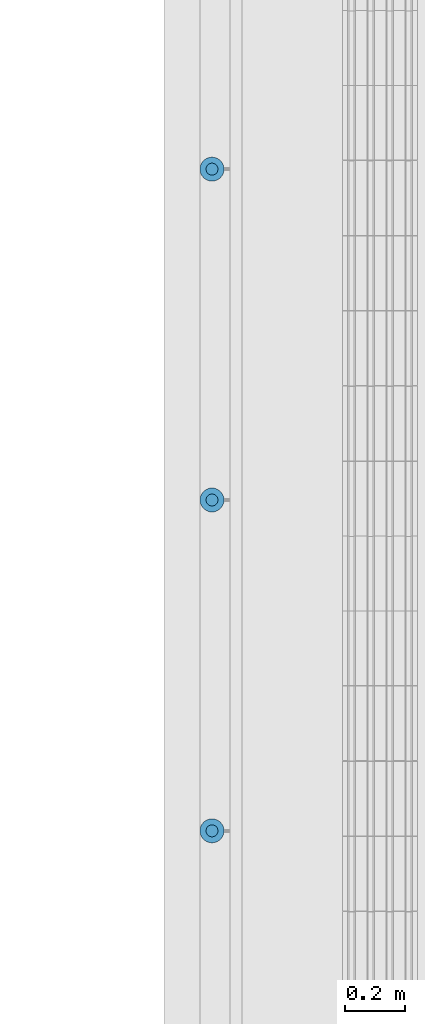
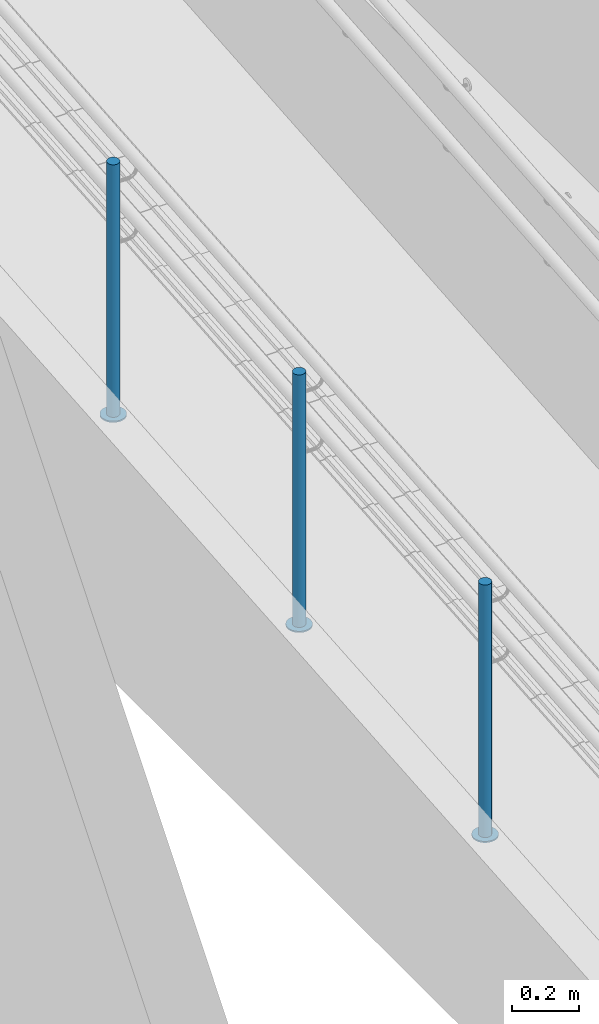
# One storey, part 121 of 237: 6 building element parts, 1 element without a shape of its own.
"""IFC2X3 building model written with IfcOpenShell, lengths in millimetres."""

from ifc_helpers import new_model, entity, si_unit, converted_unit, derived_unit, money_unit, direction, frame, origin_with_axes, place, context, subcontext, project, spatial, faceted_brep, material, type_object, element, aggregate, save


model = new_model("IFC2X3")

# Units and contexts
model_context = context("Model", 3, precision=0.01, world=origin_with_axes(), true_north=direction((0.0, 1.0)))
body_context = subcontext(model_context, "Body", "Model", "MODEL_VIEW")
ifc_project = project(units=[si_unit("LENGTHUNIT", "METRE", prefix="MILLI"), si_unit("AREAUNIT", "SQUARE_METRE"), si_unit("VOLUMEUNIT", "CUBIC_METRE"), converted_unit("PLANEANGLEUNIT", "DEGREE", entity("IfcPlaneAngleMeasure", 0.0174532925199), si_unit("PLANEANGLEUNIT", "RADIAN"), dimensions=[0, 0, 0, 0, 0, 0, 0]), money_unit("USD"), converted_unit("TIMEUNIT", "Year", entity("IfcTimeMeasure", 31556926.0), si_unit("TIMEUNIT", "SECOND"), dimensions=[0, 0, 1, 0, 0, 0, 0]), si_unit("MASSUNIT", "GRAM", prefix="KILO"), si_unit("THERMODYNAMICTEMPERATUREUNIT", "DEGREE_CELSIUS"), si_unit("LUMINOUSINTENSITYUNIT", "LUMEN"), si_unit("ENERGYUNIT", "JOULE", prefix="MEGA"), derived_unit("THERMALCONDUCTANCEUNIT", [(si_unit("POWERUNIT", "WATT"), 1), (si_unit("LENGTHUNIT", "METRE"), -1), (si_unit("THERMODYNAMICTEMPERATUREUNIT", "KELVIN"), -1)]), derived_unit("SPECIFICHEATCAPACITYUNIT", [(si_unit("ENERGYUNIT", "JOULE"), 1), (si_unit("MASSUNIT", "GRAM", prefix="KILO"), -1), (si_unit("THERMODYNAMICTEMPERATUREUNIT", "KELVIN"), -1)]), derived_unit("MASSDENSITYUNIT", [(si_unit("MASSUNIT", "GRAM", prefix="KILO"), 1), (si_unit("VOLUMEUNIT", "CUBIC_METRE"), -1)])], contexts=[model_context])

# Site, building, storey
site_placement = place(None, origin_with_axes())
site = spatial("IfcSite", under=ifc_project, at=site_placement, Name="Local", CompositionType="ELEMENT")
building_placement = place(site_placement, origin_with_axes())
building = spatial("IfcBuilding", under=site, at=building_placement, Name="Construção", CompositionType="ELEMENT")
storey_placement = place(building_placement, origin_with_axes())
storey = spatial("IfcBuildingStorey", under=building, at=storey_placement, Name="Pavimento Térreo", CompositionType="ELEMENT", Elevation=0.0)

# Railing, building element parts
railing_type = type_object("IfcRailingType", Name="Tipo de Guarda-Corpo", PredefinedType="NOTDEFINED")
railing_placement = place(storey_placement, frame((66962.5028921, 35505.5583652, -3484.00572187), z_axis=(0.0, 0.0, 1.0), x_axis=(1.0, 0.0, 0.0)))
railing = element("IfcRailing", 1, at=railing_placement, inside=storey, type_object=railing_type, Name="Guarda-Corpo - 001", PredefinedType="NOTDEFINED")
ifc_material_1 = material(Name="Aço - Inoxidável")
building_element_part_1_placement = place(railing_placement, origin_with_axes())
building_element_part_1 = element("IfcBuildingElementPart", 2, at=building_element_part_1_placement, material=ifc_material_1, Name="Aço - Inoxidável", context=body_context, shape_type="Brep", body=[
    faceted_brep([(20.3038449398, -3577.97967746, 376.65180681), (20.0, -3581.45264101, 376.65180681), (20.0, -3581.45264101, 1291.65180681), (20.3038449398, -3577.97967746, 1291.65180681), (20.3038449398, -3584.92560457, 376.65180681), (21.2061475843, -3574.61223815, 376.65180681), (22.6794919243, -3571.45264101, 376.65180681), (24.6791111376, -3568.59688882, 376.65180681), (27.1442478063, -3566.13175215, 376.65180681), (30.0, -3564.13213294, 376.65180681), (33.1595971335, -3562.6587886, 376.65180681), (36.5270364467, -3561.75648595, 376.65180681), (40.0, -3561.45264101, 376.65180681), (43.4729635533, -3561.75648595, 376.65180681), (46.8404028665, -3562.6587886, 376.65180681), (50.0, -3564.13213294, 376.65180681), (52.8557521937, -3566.13175215, 376.65180681), (55.3208888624, -3568.59688882, 376.65180681), (57.3205080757, -3571.45264101, 376.65180681), (58.7938524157, -3574.61223815, 376.65180681), (59.6961550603, -3577.97967746, 376.65180681), (60.0, -3581.45264101, 376.65180681), (59.6961550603, -3584.92560457, 376.65180681), (58.7938524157, -3588.29304388, 376.65180681), (57.3205080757, -3591.45264101, 376.65180681), (55.3208888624, -3594.30839321, 376.65180681), (52.8557521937, -3596.77352988, 376.65180681), (50.0, -3598.77314909, 376.65180681), (46.8404028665, -3600.24649343, 376.65180681), (43.4729635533, -3601.14879607, 376.65180681), (40.0, -3601.45264101, 376.65180681), (36.5270364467, -3601.14879607, 376.65180681), (33.1595971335, -3600.24649343, 376.65180681), (30.0, -3598.77314909, 376.65180681), (27.1442478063, -3596.77352988, 376.65180681), (24.6791111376, -3594.30839321, 376.65180681), (22.6794919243, -3591.45264101, 376.65180681), (21.2061475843, -3588.29304388, 376.65180681), (20.3038449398, -3584.92560457, 1291.65180681), (43.4729635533, -3561.75648595, 1291.65180681), (40.0, -3561.45264101, 1291.65180681), (36.5270364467, -3561.75648595, 1291.65180681), (33.1595971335, -3562.6587886, 1291.65180681), (30.0, -3564.13213294, 1291.65180681), (27.1442478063, -3566.13175215, 1291.65180681), (24.6791111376, -3568.59688882, 1291.65180681), (22.6794919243, -3571.45264101, 1291.65180681), (21.2061475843, -3574.61223815, 1291.65180681), (21.2061475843, -3588.29304388, 1291.65180681), (22.6794919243, -3591.45264101, 1291.65180681), (24.6791111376, -3594.30839321, 1291.65180681), (27.1442478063, -3596.77352988, 1291.65180681), (30.0, -3598.77314909, 1291.65180681), (33.1595971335, -3600.24649343, 1291.65180681), (36.5270364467, -3601.14879607, 1291.65180681), (40.0, -3601.45264101, 1291.65180681), (43.4729635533, -3601.14879607, 1291.65180681), (46.8404028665, -3600.24649343, 1291.65180681), (50.0, -3598.77314909, 1291.65180681), (52.8557521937, -3596.77352988, 1291.65180681), (55.3208888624, -3594.30839321, 1291.65180681), (57.3205080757, -3591.45264101, 1291.65180681), (58.7938524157, -3588.29304388, 1291.65180681), (59.6961550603, -3584.92560457, 1291.65180681), (60.0, -3581.45264101, 1291.65180681), (59.6961550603, -3577.97967746, 1291.65180681), (58.7938524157, -3574.61223815, 1291.65180681), (57.3205080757, -3571.45264101, 1291.65180681), (55.3208888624, -3568.59688882, 1291.65180681), (52.8557521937, -3566.13175215, 1291.65180681), (50.0, -3564.13213294, 1291.65180681), (46.8404028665, -3562.6587886, 1291.65180681)], [[[0, 1, 2, 3]], [[4, 1, 0, 5, 6, 7, 8, 9, 10, 11, 12, 13, 14, 15, 16, 17, 18, 19, 20, 21, 22, 23, 24, 25, 26, 27, 28, 29, 30, 31, 32, 33, 34, 35, 36, 37]], [[1, 4, 38, 2]], [[39, 40, 41, 42, 43, 44, 45, 46, 47, 3, 2, 38, 48, 49, 50, 51, 52, 53, 54, 55, 56, 57, 58, 59, 60, 61, 62, 63, 64, 65, 66, 67, 68, 69, 70, 71]], [[5, 0, 3, 47]], [[6, 5, 47, 46]], [[7, 6, 46, 45]], [[8, 7, 45, 44]], [[9, 8, 44, 43]], [[10, 9, 43, 42]], [[11, 10, 42, 41]], [[12, 11, 41, 40]], [[13, 12, 40, 39]], [[14, 13, 39, 71]], [[15, 14, 71, 70]], [[16, 15, 70, 69]], [[17, 16, 69, 68]], [[18, 17, 68, 67]], [[19, 18, 67, 66]], [[20, 19, 66, 65]], [[21, 20, 65, 64]], [[22, 21, 64, 63]], [[23, 22, 63, 62]], [[24, 23, 62, 61]], [[25, 24, 61, 60]], [[26, 25, 60, 59]], [[27, 26, 59, 58]], [[28, 27, 58, 57]], [[29, 28, 57, 56]], [[30, 29, 56, 55]], [[31, 30, 55, 54]], [[32, 31, 54, 53]], [[33, 32, 53, 52]], [[34, 33, 52, 51]], [[35, 34, 51, 50]], [[36, 35, 50, 49]], [[37, 36, 49, 48]], [[4, 37, 48, 38]]]),
])
ifc_material_2 = material(Name="Alumínio")
building_element_part_2_placement = place(railing_placement, origin_with_axes())
building_element_part_2 = element("IfcBuildingElementPart", 3, at=building_element_part_2_placement, material=ifc_material_2, Name="Alumínio", context=body_context, shape_type="Brep", body=[
    faceted_brep([(40.0, -3621.45264101, 371.65180681), (46.9459271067, -3620.84495113, 371.65180681), (46.9459271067, -3620.84495113, 376.65180681), (40.0, -3621.45264101, 376.65180681), (33.0540728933, -3620.84495113, 371.65180681), (26.319194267, -3619.04034585, 371.65180681), (20.0, -3616.09365716, 371.65180681), (14.2884956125, -3612.09441874, 371.65180681), (9.35822227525, -3607.1641454, 371.65180681), (5.35898384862, -3601.45264101, 371.65180681), (2.41229516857, -3595.13344675, 371.65180681), (0.607689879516, -3588.39856812, 371.65180681), (0.0, -3581.45264101, 371.65180681), (0.607689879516, -3574.50671391, 371.65180681), (2.41229516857, -3567.77183528, 371.65180681), (5.35898384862, -3561.45264101, 371.65180681), (9.35822227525, -3555.74113663, 371.65180681), (14.2884956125, -3550.81086329, 371.65180681), (20.0, -3546.81162486, 371.65180681), (26.319194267, -3543.86493618, 371.65180681), (33.0540728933, -3542.06033089, 371.65180681), (40.0, -3541.45264101, 371.65180681), (46.9459271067, -3542.06033089, 371.65180681), (53.680805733, -3543.86493618, 371.65180681), (60.0, -3546.81162486, 371.65180681), (65.7115043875, -3550.81086329, 371.65180681), (70.6417777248, -3555.74113663, 371.65180681), (74.6410161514, -3561.45264101, 371.65180681), (77.5877048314, -3567.77183528, 371.65180681), (79.3923101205, -3574.50671391, 371.65180681), (80.0, -3581.45264101, 371.65180681), (79.3923101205, -3588.39856812, 371.65180681), (77.5877048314, -3595.13344675, 371.65180681), (74.6410161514, -3601.45264101, 371.65180681), (70.6417777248, -3607.1641454, 371.65180681), (65.7115043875, -3612.09441874, 371.65180681), (60.0, -3616.09365716, 371.65180681), (53.680805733, -3619.04034585, 371.65180681), (53.680805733, -3619.04034585, 376.65180681), (60.0, -3616.09365716, 376.65180681), (65.7115043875, -3612.09441874, 376.65180681), (70.6417777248, -3607.1641454, 376.65180681), (74.6410161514, -3601.45264101, 376.65180681), (77.5877048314, -3595.13344675, 376.65180681), (79.3923101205, -3588.39856812, 376.65180681), (80.0, -3581.45264101, 376.65180681), (79.3923101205, -3574.50671391, 376.65180681), (77.5877048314, -3567.77183528, 376.65180681), (74.6410161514, -3561.45264101, 376.65180681), (70.6417777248, -3555.74113663, 376.65180681), (65.7115043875, -3550.81086329, 376.65180681), (60.0, -3546.81162486, 376.65180681), (53.680805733, -3543.86493618, 376.65180681), (46.9459271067, -3542.06033089, 376.65180681), (40.0, -3541.45264101, 376.65180681), (33.0540728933, -3542.06033089, 376.65180681), (26.319194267, -3543.86493618, 376.65180681), (20.0, -3546.81162486, 376.65180681), (14.2884956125, -3550.81086329, 376.65180681), (9.35822227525, -3555.74113663, 376.65180681), (5.35898384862, -3561.45264101, 376.65180681), (2.41229516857, -3567.77183528, 376.65180681), (0.607689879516, -3574.50671391, 376.65180681), (0.0, -3581.45264101, 376.65180681), (0.607689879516, -3588.39856812, 376.65180681), (2.41229516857, -3595.13344675, 376.65180681), (5.35898384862, -3601.45264101, 376.65180681), (9.35822227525, -3607.1641454, 376.65180681), (14.2884956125, -3612.09441874, 376.65180681), (20.0, -3616.09365716, 376.65180681), (26.319194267, -3619.04034585, 376.65180681), (33.0540728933, -3620.84495113, 376.65180681)], [[[0, 1, 2, 3]], [[0, 4, 5, 6, 7, 8, 9, 10, 11, 12, 13, 14, 15, 16, 17, 18, 19, 20, 21, 22, 23, 24, 25, 26, 27, 28, 29, 30, 31, 32, 33, 34, 35, 36, 37, 1]], [[1, 37, 38, 2]], [[3, 2, 38, 39, 40, 41, 42, 43, 44, 45, 46, 47, 48, 49, 50, 51, 52, 53, 54, 55, 56, 57, 58, 59, 60, 61, 62, 63, 64, 65, 66, 67, 68, 69, 70, 71]], [[4, 0, 3, 71]], [[5, 4, 71, 70]], [[6, 5, 70, 69]], [[7, 6, 69, 68]], [[8, 7, 68, 67]], [[9, 8, 67, 66]], [[10, 9, 66, 65]], [[11, 10, 65, 64]], [[12, 11, 64, 63]], [[13, 12, 63, 62]], [[14, 13, 62, 61]], [[15, 14, 61, 60]], [[16, 15, 60, 59]], [[17, 16, 59, 58]], [[18, 17, 58, 57]], [[19, 18, 57, 56]], [[20, 19, 56, 55]], [[21, 20, 55, 54]], [[22, 21, 54, 53]], [[23, 22, 53, 52]], [[24, 23, 52, 51]], [[25, 24, 51, 50]], [[26, 25, 50, 49]], [[27, 26, 49, 48]], [[28, 27, 48, 47]], [[29, 28, 47, 46]], [[30, 29, 46, 45]], [[31, 30, 45, 44]], [[32, 31, 44, 43]], [[33, 32, 43, 42]], [[34, 33, 42, 41]], [[35, 34, 41, 40]], [[36, 35, 40, 39]], [[37, 36, 39, 38]]]),
])
building_element_part_3_placement = place(railing_placement, origin_with_axes())
building_element_part_3 = element("IfcBuildingElementPart", 4, at=building_element_part_3_placement, material=ifc_material_1, Name="Aço - Inoxidável", context=body_context, shape_type="Brep", body=[
    faceted_brep([(20.3038449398, -4681.74669931, 284.573077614), (20.0, -4685.21966286, 284.573077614), (20.0, -4685.21966286, 1199.57307761), (20.3038449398, -4681.74669931, 1199.57307761), (20.3038449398, -4688.69262641, 284.573077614), (21.2061475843, -4678.37925999, 284.573077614), (22.6794919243, -4675.21966286, 284.573077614), (24.6791111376, -4672.36391066, 284.573077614), (27.1442478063, -4669.898774, 284.573077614), (30.0, -4667.89915478, 284.573077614), (33.1595971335, -4666.42581044, 284.573077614), (36.5270364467, -4665.5235078, 284.573077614), (40.0, -4665.21966286, 284.573077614), (43.4729635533, -4665.5235078, 284.573077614), (46.8404028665, -4666.42581044, 284.573077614), (50.0, -4667.89915478, 284.573077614), (52.8557521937, -4669.898774, 284.573077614), (55.3208888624, -4672.36391066, 284.573077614), (57.3205080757, -4675.21966286, 284.573077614), (58.7938524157, -4678.37925999, 284.573077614), (59.6961550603, -4681.74669931, 284.573077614), (60.0, -4685.21966286, 284.573077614), (59.6961550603, -4688.69262641, 284.573077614), (58.7938524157, -4692.06006573, 284.573077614), (57.3205080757, -4695.21966286, 284.573077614), (55.3208888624, -4698.07541505, 284.573077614), (52.8557521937, -4700.54055172, 284.573077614), (50.0, -4702.54017093, 284.573077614), (46.8404028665, -4704.01351527, 284.573077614), (43.4729635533, -4704.91581792, 284.573077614), (40.0, -4705.21966286, 284.573077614), (36.5270364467, -4704.91581792, 284.573077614), (33.1595971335, -4704.01351527, 284.573077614), (30.0, -4702.54017093, 284.573077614), (27.1442478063, -4700.54055172, 284.573077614), (24.6791111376, -4698.07541505, 284.573077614), (22.6794919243, -4695.21966286, 284.573077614), (21.2061475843, -4692.06006573, 284.573077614), (20.3038449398, -4688.69262641, 1199.57307761), (43.4729635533, -4665.5235078, 1199.57307761), (40.0, -4665.21966286, 1199.57307761), (36.5270364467, -4665.5235078, 1199.57307761), (33.1595971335, -4666.42581044, 1199.57307761), (30.0, -4667.89915478, 1199.57307761), (27.1442478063, -4669.898774, 1199.57307761), (24.6791111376, -4672.36391066, 1199.57307761), (22.6794919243, -4675.21966286, 1199.57307761), (21.2061475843, -4678.37925999, 1199.57307761), (21.2061475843, -4692.06006573, 1199.57307761), (22.6794919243, -4695.21966286, 1199.57307761), (24.6791111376, -4698.07541505, 1199.57307761), (27.1442478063, -4700.54055172, 1199.57307761), (30.0, -4702.54017093, 1199.57307761), (33.1595971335, -4704.01351527, 1199.57307761), (36.5270364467, -4704.91581792, 1199.57307761), (40.0, -4705.21966286, 1199.57307761), (43.4729635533, -4704.91581792, 1199.57307761), (46.8404028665, -4704.01351527, 1199.57307761), (50.0, -4702.54017093, 1199.57307761), (52.8557521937, -4700.54055172, 1199.57307761), (55.3208888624, -4698.07541505, 1199.57307761), (57.3205080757, -4695.21966286, 1199.57307761), (58.7938524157, -4692.06006573, 1199.57307761), (59.6961550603, -4688.69262641, 1199.57307761), (60.0, -4685.21966286, 1199.57307761), (59.6961550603, -4681.74669931, 1199.57307761), (58.7938524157, -4678.37925999, 1199.57307761), (57.3205080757, -4675.21966286, 1199.57307761), (55.3208888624, -4672.36391066, 1199.57307761), (52.8557521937, -4669.898774, 1199.57307761), (50.0, -4667.89915478, 1199.57307761), (46.8404028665, -4666.42581044, 1199.57307761)], [[[0, 1, 2, 3]], [[4, 1, 0, 5, 6, 7, 8, 9, 10, 11, 12, 13, 14, 15, 16, 17, 18, 19, 20, 21, 22, 23, 24, 25, 26, 27, 28, 29, 30, 31, 32, 33, 34, 35, 36, 37]], [[1, 4, 38, 2]], [[39, 40, 41, 42, 43, 44, 45, 46, 47, 3, 2, 38, 48, 49, 50, 51, 52, 53, 54, 55, 56, 57, 58, 59, 60, 61, 62, 63, 64, 65, 66, 67, 68, 69, 70, 71]], [[5, 0, 3, 47]], [[6, 5, 47, 46]], [[7, 6, 46, 45]], [[8, 7, 45, 44]], [[9, 8, 44, 43]], [[10, 9, 43, 42]], [[11, 10, 42, 41]], [[12, 11, 41, 40]], [[13, 12, 40, 39]], [[14, 13, 39, 71]], [[15, 14, 71, 70]], [[16, 15, 70, 69]], [[17, 16, 69, 68]], [[18, 17, 68, 67]], [[19, 18, 67, 66]], [[20, 19, 66, 65]], [[21, 20, 65, 64]], [[22, 21, 64, 63]], [[23, 22, 63, 62]], [[24, 23, 62, 61]], [[25, 24, 61, 60]], [[26, 25, 60, 59]], [[27, 26, 59, 58]], [[28, 27, 58, 57]], [[29, 28, 57, 56]], [[30, 29, 56, 55]], [[31, 30, 55, 54]], [[32, 31, 54, 53]], [[33, 32, 53, 52]], [[34, 33, 52, 51]], [[35, 34, 51, 50]], [[36, 35, 50, 49]], [[37, 36, 49, 48]], [[4, 37, 48, 38]]]),
])
building_element_part_4_placement = place(railing_placement, origin_with_axes())
building_element_part_4 = element("IfcBuildingElementPart", 5, at=building_element_part_4_placement, material=ifc_material_2, Name="Alumínio", context=body_context, shape_type="Brep", body=[
    faceted_brep([(40.0, -4725.21966286, 279.573077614), (46.9459271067, -4724.61197298, 279.573077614), (46.9459271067, -4724.61197298, 284.573077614), (40.0, -4725.21966286, 284.573077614), (33.0540728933, -4724.61197298, 279.573077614), (26.319194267, -4722.80736769, 279.573077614), (20.0, -4719.86067901, 279.573077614), (14.2884956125, -4715.86144058, 279.573077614), (9.35822227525, -4710.93116725, 279.573077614), (5.35898384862, -4705.21966286, 279.573077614), (2.41229516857, -4698.90046859, 279.573077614), (0.607689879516, -4692.16558997, 279.573077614), (0.0, -4685.21966286, 279.573077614), (0.607689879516, -4678.27373575, 279.573077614), (2.41229516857, -4671.53885713, 279.573077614), (5.35898384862, -4665.21966286, 279.573077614), (9.35822227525, -4659.50815847, 279.573077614), (14.2884956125, -4654.57788513, 279.573077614), (20.0, -4650.57864671, 279.573077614), (26.319194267, -4647.63195803, 279.573077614), (33.0540728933, -4645.82735274, 279.573077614), (40.0, -4645.21966286, 279.573077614), (46.9459271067, -4645.82735274, 279.573077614), (53.680805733, -4647.63195803, 279.573077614), (60.0, -4650.57864671, 279.573077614), (65.7115043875, -4654.57788513, 279.573077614), (70.6417777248, -4659.50815847, 279.573077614), (74.6410161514, -4665.21966286, 279.573077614), (77.5877048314, -4671.53885713, 279.573077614), (79.3923101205, -4678.27373575, 279.573077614), (80.0, -4685.21966286, 279.573077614), (79.3923101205, -4692.16558997, 279.573077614), (77.5877048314, -4698.90046859, 279.573077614), (74.6410161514, -4705.21966286, 279.573077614), (70.6417777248, -4710.93116725, 279.573077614), (65.7115043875, -4715.86144058, 279.573077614), (60.0, -4719.86067901, 279.573077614), (53.680805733, -4722.80736769, 279.573077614), (53.680805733, -4722.80736769, 284.573077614), (60.0, -4719.86067901, 284.573077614), (65.7115043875, -4715.86144058, 284.573077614), (70.6417777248, -4710.93116725, 284.573077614), (74.6410161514, -4705.21966286, 284.573077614), (77.5877048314, -4698.90046859, 284.573077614), (79.3923101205, -4692.16558997, 284.573077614), (80.0, -4685.21966286, 284.573077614), (79.3923101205, -4678.27373575, 284.573077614), (77.5877048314, -4671.53885713, 284.573077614), (74.6410161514, -4665.21966286, 284.573077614), (70.6417777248, -4659.50815847, 284.573077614), (65.7115043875, -4654.57788513, 284.573077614), (60.0, -4650.57864671, 284.573077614), (53.680805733, -4647.63195803, 284.573077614), (46.9459271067, -4645.82735274, 284.573077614), (40.0, -4645.21966286, 284.573077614), (33.0540728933, -4645.82735274, 284.573077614), (26.319194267, -4647.63195803, 284.573077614), (20.0, -4650.57864671, 284.573077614), (14.2884956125, -4654.57788513, 284.573077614), (9.35822227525, -4659.50815847, 284.573077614), (5.35898384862, -4665.21966286, 284.573077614), (2.41229516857, -4671.53885713, 284.573077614), (0.607689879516, -4678.27373575, 284.573077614), (0.0, -4685.21966286, 284.573077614), (0.607689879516, -4692.16558997, 284.573077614), (2.41229516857, -4698.90046859, 284.573077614), (5.35898384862, -4705.21966286, 284.573077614), (9.35822227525, -4710.93116725, 284.573077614), (14.2884956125, -4715.86144058, 284.573077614), (20.0, -4719.86067901, 284.573077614), (26.319194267, -4722.80736769, 284.573077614), (33.0540728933, -4724.61197298, 284.573077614)], [[[0, 1, 2, 3]], [[0, 4, 5, 6, 7, 8, 9, 10, 11, 12, 13, 14, 15, 16, 17, 18, 19, 20, 21, 22, 23, 24, 25, 26, 27, 28, 29, 30, 31, 32, 33, 34, 35, 36, 37, 1]], [[1, 37, 38, 2]], [[3, 2, 38, 39, 40, 41, 42, 43, 44, 45, 46, 47, 48, 49, 50, 51, 52, 53, 54, 55, 56, 57, 58, 59, 60, 61, 62, 63, 64, 65, 66, 67, 68, 69, 70, 71]], [[4, 0, 3, 71]], [[5, 4, 71, 70]], [[6, 5, 70, 69]], [[7, 6, 69, 68]], [[8, 7, 68, 67]], [[9, 8, 67, 66]], [[10, 9, 66, 65]], [[11, 10, 65, 64]], [[12, 11, 64, 63]], [[13, 12, 63, 62]], [[14, 13, 62, 61]], [[15, 14, 61, 60]], [[16, 15, 60, 59]], [[17, 16, 59, 58]], [[18, 17, 58, 57]], [[19, 18, 57, 56]], [[20, 19, 56, 55]], [[21, 20, 55, 54]], [[22, 21, 54, 53]], [[23, 22, 53, 52]], [[24, 23, 52, 51]], [[25, 24, 51, 50]], [[26, 25, 50, 49]], [[27, 26, 49, 48]], [[28, 27, 48, 47]], [[29, 28, 47, 46]], [[30, 29, 46, 45]], [[31, 30, 45, 44]], [[32, 31, 44, 43]], [[33, 32, 43, 42]], [[34, 33, 42, 41]], [[35, 34, 41, 40]], [[36, 35, 40, 39]], [[37, 36, 39, 38]]]),
])
building_element_part_5_placement = place(railing_placement, origin_with_axes())
building_element_part_5 = element("IfcBuildingElementPart", 6, at=building_element_part_5_placement, material=ifc_material_1, Name="Aço - Inoxidável", context=body_context, shape_type="Brep", body=[
    faceted_brep([(20.3038449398, -5785.51372115, 192.494348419), (20.0, -5788.9866847, 192.494348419), (20.0, -5788.9866847, 1107.49434842), (20.3038449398, -5785.51372115, 1107.49434842), (20.3038449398, -5792.45964826, 192.494348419), (21.2061475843, -5782.14628184, 192.494348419), (22.6794919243, -5778.9866847, 192.494348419), (24.6791111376, -5776.13093251, 192.494348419), (27.1442478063, -5773.66579584, 192.494348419), (30.0, -5771.66617663, 192.494348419), (33.1595971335, -5770.19283229, 192.494348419), (36.5270364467, -5769.29052964, 192.494348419), (40.0, -5768.9866847, 192.494348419), (43.4729635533, -5769.29052964, 192.494348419), (46.8404028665, -5770.19283229, 192.494348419), (50.0, -5771.66617663, 192.494348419), (52.8557521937, -5773.66579584, 192.494348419), (55.3208888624, -5776.13093251, 192.494348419), (57.3205080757, -5778.9866847, 192.494348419), (58.7938524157, -5782.14628184, 192.494348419), (59.6961550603, -5785.51372115, 192.494348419), (60.0, -5788.9866847, 192.494348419), (59.6961550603, -5792.45964826, 192.494348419), (58.7938524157, -5795.82708757, 192.494348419), (57.3205080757, -5798.9866847, 192.494348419), (55.3208888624, -5801.8424369, 192.494348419), (52.8557521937, -5804.30757357, 192.494348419), (50.0, -5806.30719278, 192.494348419), (46.8404028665, -5807.78053712, 192.494348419), (43.4729635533, -5808.68283976, 192.494348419), (40.0, -5808.9866847, 192.494348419), (36.5270364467, -5808.68283976, 192.494348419), (33.1595971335, -5807.78053712, 192.494348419), (30.0, -5806.30719278, 192.494348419), (27.1442478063, -5804.30757357, 192.494348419), (24.6791111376, -5801.8424369, 192.494348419), (22.6794919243, -5798.9866847, 192.494348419), (21.2061475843, -5795.82708757, 192.494348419), (20.3038449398, -5792.45964826, 1107.49434842), (43.4729635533, -5769.29052964, 1107.49434842), (40.0, -5768.9866847, 1107.49434842), (36.5270364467, -5769.29052964, 1107.49434842), (33.1595971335, -5770.19283229, 1107.49434842), (30.0, -5771.66617663, 1107.49434842), (27.1442478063, -5773.66579584, 1107.49434842), (24.6791111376, -5776.13093251, 1107.49434842), (22.6794919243, -5778.9866847, 1107.49434842), (21.2061475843, -5782.14628184, 1107.49434842), (21.2061475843, -5795.82708757, 1107.49434842), (22.6794919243, -5798.9866847, 1107.49434842), (24.6791111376, -5801.8424369, 1107.49434842), (27.1442478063, -5804.30757357, 1107.49434842), (30.0, -5806.30719278, 1107.49434842), (33.1595971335, -5807.78053712, 1107.49434842), (36.5270364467, -5808.68283976, 1107.49434842), (40.0, -5808.9866847, 1107.49434842), (43.4729635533, -5808.68283976, 1107.49434842), (46.8404028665, -5807.78053712, 1107.49434842), (50.0, -5806.30719278, 1107.49434842), (52.8557521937, -5804.30757357, 1107.49434842), (55.3208888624, -5801.8424369, 1107.49434842), (57.3205080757, -5798.9866847, 1107.49434842), (58.7938524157, -5795.82708757, 1107.49434842), (59.6961550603, -5792.45964826, 1107.49434842), (60.0, -5788.9866847, 1107.49434842), (59.6961550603, -5785.51372115, 1107.49434842), (58.7938524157, -5782.14628184, 1107.49434842), (57.3205080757, -5778.9866847, 1107.49434842), (55.3208888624, -5776.13093251, 1107.49434842), (52.8557521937, -5773.66579584, 1107.49434842), (50.0, -5771.66617663, 1107.49434842), (46.8404028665, -5770.19283229, 1107.49434842)], [[[0, 1, 2, 3]], [[4, 1, 0, 5, 6, 7, 8, 9, 10, 11, 12, 13, 14, 15, 16, 17, 18, 19, 20, 21, 22, 23, 24, 25, 26, 27, 28, 29, 30, 31, 32, 33, 34, 35, 36, 37]], [[1, 4, 38, 2]], [[39, 40, 41, 42, 43, 44, 45, 46, 47, 3, 2, 38, 48, 49, 50, 51, 52, 53, 54, 55, 56, 57, 58, 59, 60, 61, 62, 63, 64, 65, 66, 67, 68, 69, 70, 71]], [[5, 0, 3, 47]], [[6, 5, 47, 46]], [[7, 6, 46, 45]], [[8, 7, 45, 44]], [[9, 8, 44, 43]], [[10, 9, 43, 42]], [[11, 10, 42, 41]], [[12, 11, 41, 40]], [[13, 12, 40, 39]], [[14, 13, 39, 71]], [[15, 14, 71, 70]], [[16, 15, 70, 69]], [[17, 16, 69, 68]], [[18, 17, 68, 67]], [[19, 18, 67, 66]], [[20, 19, 66, 65]], [[21, 20, 65, 64]], [[22, 21, 64, 63]], [[23, 22, 63, 62]], [[24, 23, 62, 61]], [[25, 24, 61, 60]], [[26, 25, 60, 59]], [[27, 26, 59, 58]], [[28, 27, 58, 57]], [[29, 28, 57, 56]], [[30, 29, 56, 55]], [[31, 30, 55, 54]], [[32, 31, 54, 53]], [[33, 32, 53, 52]], [[34, 33, 52, 51]], [[35, 34, 51, 50]], [[36, 35, 50, 49]], [[37, 36, 49, 48]], [[4, 37, 48, 38]]]),
])
building_element_part_6_placement = place(railing_placement, origin_with_axes())
building_element_part_6 = element("IfcBuildingElementPart", 7, at=building_element_part_6_placement, material=ifc_material_2, Name="Alumínio", context=body_context, shape_type="Brep", body=[
    faceted_brep([(40.0, -5828.9866847, 187.494348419), (46.9459271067, -5828.37899482, 187.494348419), (46.9459271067, -5828.37899482, 192.494348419), (40.0, -5828.9866847, 192.494348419), (33.0540728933, -5828.37899482, 187.494348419), (26.319194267, -5826.57438954, 187.494348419), (20.0, -5823.62770086, 187.494348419), (14.2884956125, -5819.62846243, 187.494348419), (9.35822227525, -5814.69818909, 187.494348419), (5.35898384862, -5808.9866847, 187.494348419), (2.41229516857, -5802.66749044, 187.494348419), (0.607689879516, -5795.93261181, 187.494348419), (0.0, -5788.9866847, 187.494348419), (0.607689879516, -5782.0407576, 187.494348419), (2.41229516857, -5775.30587897, 187.494348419), (5.35898384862, -5768.9866847, 187.494348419), (9.35822227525, -5763.27518032, 187.494348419), (14.2884956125, -5758.34490698, 187.494348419), (20.0, -5754.34566855, 187.494348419), (26.319194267, -5751.39897987, 187.494348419), (33.0540728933, -5749.59437458, 187.494348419), (40.0, -5748.9866847, 187.494348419), (46.9459271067, -5749.59437458, 187.494348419), (53.680805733, -5751.39897987, 187.494348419), (60.0, -5754.34566855, 187.494348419), (65.7115043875, -5758.34490698, 187.494348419), (70.6417777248, -5763.27518032, 187.494348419), (74.6410161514, -5768.9866847, 187.494348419), (77.5877048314, -5775.30587897, 187.494348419), (79.3923101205, -5782.0407576, 187.494348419), (80.0, -5788.9866847, 187.494348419), (79.3923101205, -5795.93261181, 187.494348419), (77.5877048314, -5802.66749044, 187.494348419), (74.6410161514, -5808.9866847, 187.494348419), (70.6417777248, -5814.69818909, 187.494348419), (65.7115043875, -5819.62846243, 187.494348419), (60.0, -5823.62770086, 187.494348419), (53.680805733, -5826.57438954, 187.494348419), (53.680805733, -5826.57438954, 192.494348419), (60.0, -5823.62770086, 192.494348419), (65.7115043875, -5819.62846243, 192.494348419), (70.6417777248, -5814.69818909, 192.494348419), (74.6410161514, -5808.9866847, 192.494348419), (77.5877048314, -5802.66749044, 192.494348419), (79.3923101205, -5795.93261181, 192.494348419), (80.0, -5788.9866847, 192.494348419), (79.3923101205, -5782.0407576, 192.494348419), (77.5877048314, -5775.30587897, 192.494348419), (74.6410161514, -5768.9866847, 192.494348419), (70.6417777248, -5763.27518032, 192.494348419), (65.7115043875, -5758.34490698, 192.494348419), (60.0, -5754.34566855, 192.494348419), (53.680805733, -5751.39897987, 192.494348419), (46.9459271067, -5749.59437458, 192.494348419), (40.0, -5748.9866847, 192.494348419), (33.0540728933, -5749.59437458, 192.494348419), (26.319194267, -5751.39897987, 192.494348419), (20.0, -5754.34566855, 192.494348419), (14.2884956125, -5758.34490698, 192.494348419), (9.35822227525, -5763.27518032, 192.494348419), (5.35898384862, -5768.9866847, 192.494348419), (2.41229516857, -5775.30587897, 192.494348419), (0.607689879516, -5782.0407576, 192.494348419), (0.0, -5788.9866847, 192.494348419), (0.607689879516, -5795.93261181, 192.494348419), (2.41229516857, -5802.66749044, 192.494348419), (5.35898384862, -5808.9866847, 192.494348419), (9.35822227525, -5814.69818909, 192.494348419), (14.2884956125, -5819.62846243, 192.494348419), (20.0, -5823.62770086, 192.494348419), (26.319194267, -5826.57438954, 192.494348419), (33.0540728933, -5828.37899482, 192.494348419)], [[[0, 1, 2, 3]], [[0, 4, 5, 6, 7, 8, 9, 10, 11, 12, 13, 14, 15, 16, 17, 18, 19, 20, 21, 22, 23, 24, 25, 26, 27, 28, 29, 30, 31, 32, 33, 34, 35, 36, 37, 1]], [[1, 37, 38, 2]], [[3, 2, 38, 39, 40, 41, 42, 43, 44, 45, 46, 47, 48, 49, 50, 51, 52, 53, 54, 55, 56, 57, 58, 59, 60, 61, 62, 63, 64, 65, 66, 67, 68, 69, 70, 71]], [[4, 0, 3, 71]], [[5, 4, 71, 70]], [[6, 5, 70, 69]], [[7, 6, 69, 68]], [[8, 7, 68, 67]], [[9, 8, 67, 66]], [[10, 9, 66, 65]], [[11, 10, 65, 64]], [[12, 11, 64, 63]], [[13, 12, 63, 62]], [[14, 13, 62, 61]], [[15, 14, 61, 60]], [[16, 15, 60, 59]], [[17, 16, 59, 58]], [[18, 17, 58, 57]], [[19, 18, 57, 56]], [[20, 19, 56, 55]], [[21, 20, 55, 54]], [[22, 21, 54, 53]], [[23, 22, 53, 52]], [[24, 23, 52, 51]], [[25, 24, 51, 50]], [[26, 25, 50, 49]], [[27, 26, 49, 48]], [[28, 27, 48, 47]], [[29, 28, 47, 46]], [[30, 29, 46, 45]], [[31, 30, 45, 44]], [[32, 31, 44, 43]], [[33, 32, 43, 42]], [[34, 33, 42, 41]], [[35, 34, 41, 40]], [[36, 35, 40, 39]], [[37, 36, 39, 38]]]),
])
aggregate(railing, [building_element_part_1, building_element_part_2, building_element_part_3, building_element_part_4, building_element_part_5, building_element_part_6])

save(model, "model.ifc")
